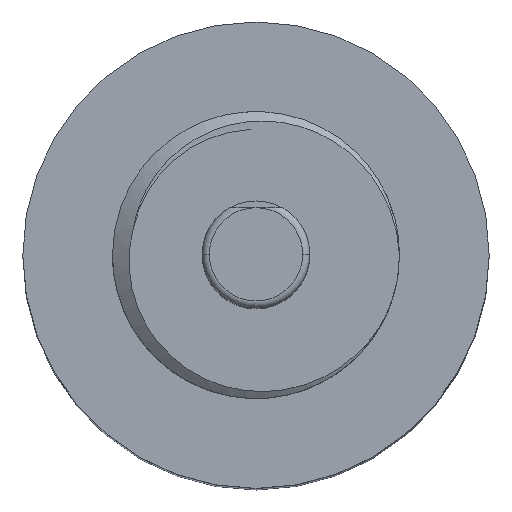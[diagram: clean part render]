
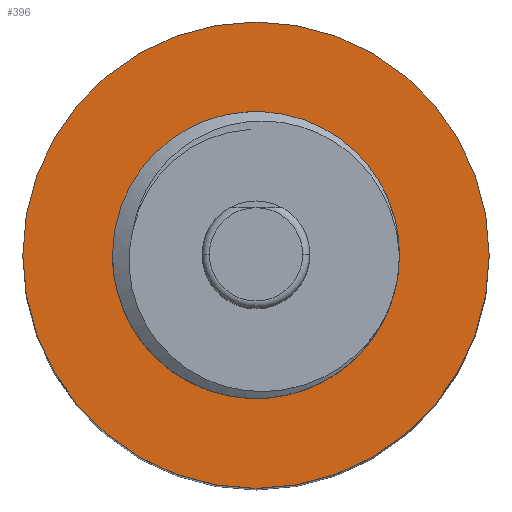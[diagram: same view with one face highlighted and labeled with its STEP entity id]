
A CAD part, top view. The second image highlights one B-rep face of the part: STEP entity #396.
In plain terms, the highlighted planar face has unit normal (0, 0, 1).
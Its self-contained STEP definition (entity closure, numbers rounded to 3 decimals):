
#85 = CARTESIAN_POINT ( 'NONE',  ( 0., 0., -13.9 ) ) ;
#95 = ORIENTED_EDGE ( 'NONE', *, *, #998, .T. ) ;
#105 = DIRECTION ( 'NONE',  ( -1., 0., 0. ) ) ;
#116 = DIRECTION ( 'NONE',  ( 0., 0., -1. ) ) ;
#140 = CARTESIAN_POINT ( 'NONE',  ( 0., 0., -13.9 ) ) ;
#217 = DIRECTION ( 'NONE',  ( -1., 0., 0. ) ) ;
#232 = DIRECTION ( 'NONE',  ( 0., 0., -1. ) ) ;
#233 = DIRECTION ( 'NONE',  ( 0., 0., -1. ) ) ;
#242 = AXIS2_PLACEMENT_3D ( 'NONE', #85, #233, #609 ) ;
#249 = DIRECTION ( 'NONE',  ( -1., 0., 0. ) ) ;
#251 = ORIENTED_EDGE ( 'NONE', *, *, #1662, .F. ) ;
#329 = EDGE_LOOP ( 'NONE', ( #95, #966 ) ) ;
#352 = AXIS2_PLACEMENT_3D ( 'NONE', #140, #1253, #249 ) ;
#396 = ADVANCED_FACE ( 'NONE', ( #1120, #1635 ), #963, .F. ) ;
#486 = DIRECTION ( 'NONE',  ( 0., 0., -1. ) ) ;
#520 = CARTESIAN_POINT ( 'NONE',  ( 6.5, 0., -13.9 ) ) ;
#583 = EDGE_CURVE ( 'NONE', #706, #887, #1277, .T. ) ;
#607 = DIRECTION ( 'NONE',  ( -1., 0., 0. ) ) ;
#609 = DIRECTION ( 'NONE',  ( -1., 0., 0. ) ) ;
#617 = CARTESIAN_POINT ( 'NONE',  ( -3.333, 0., -13.9 ) ) ;
#666 = VERTEX_POINT ( 'NONE', #617 ) ;
#706 = VERTEX_POINT ( 'NONE', #520 ) ;
#721 = AXIS2_PLACEMENT_3D ( 'NONE', #1251, #232, #105 ) ;
#848 = CARTESIAN_POINT ( 'NONE',  ( 3.333, 0., -13.9 ) ) ;
#887 = VERTEX_POINT ( 'NONE', #1372 ) ;
#963 = PLANE ( 'NONE',  #1071 ) ;
#966 = ORIENTED_EDGE ( 'NONE', *, *, #1346, .T. ) ;
#998 = EDGE_CURVE ( 'NONE', #666, #1483, #1519, .T. ) ;
#1013 = ORIENTED_EDGE ( 'NONE', *, *, #583, .F. ) ;
#1071 = AXIS2_PLACEMENT_3D ( 'NONE', #1504, #486, #217 ) ;
#1073 = CIRCLE ( 'NONE', #352, 6.5 ) ;
#1111 = CARTESIAN_POINT ( 'NONE',  ( 0., 0., -13.9 ) ) ;
#1120 = FACE_OUTER_BOUND ( 'NONE', #1462, .T. ) ;
#1246 = AXIS2_PLACEMENT_3D ( 'NONE', #1111, #116, #607 ) ;
#1251 = CARTESIAN_POINT ( 'NONE',  ( 0., 0., -13.9 ) ) ;
#1253 = DIRECTION ( 'NONE',  ( 0., 0., -1. ) ) ;
#1277 = CIRCLE ( 'NONE', #721, 6.5 ) ;
#1346 = EDGE_CURVE ( 'NONE', #1483, #666, #1420, .T. ) ;
#1372 = CARTESIAN_POINT ( 'NONE',  ( -6.5, 0., -13.9 ) ) ;
#1420 = CIRCLE ( 'NONE', #242, 3.333 ) ;
#1462 = EDGE_LOOP ( 'NONE', ( #251, #1013 ) ) ;
#1483 = VERTEX_POINT ( 'NONE', #848 ) ;
#1504 = CARTESIAN_POINT ( 'NONE',  ( 0., -3.333, -13.9 ) ) ;
#1519 = CIRCLE ( 'NONE', #1246, 3.333 ) ;
#1635 = FACE_BOUND ( 'NONE', #329, .T. ) ;
#1662 = EDGE_CURVE ( 'NONE', #887, #706, #1073, .T. ) ;
